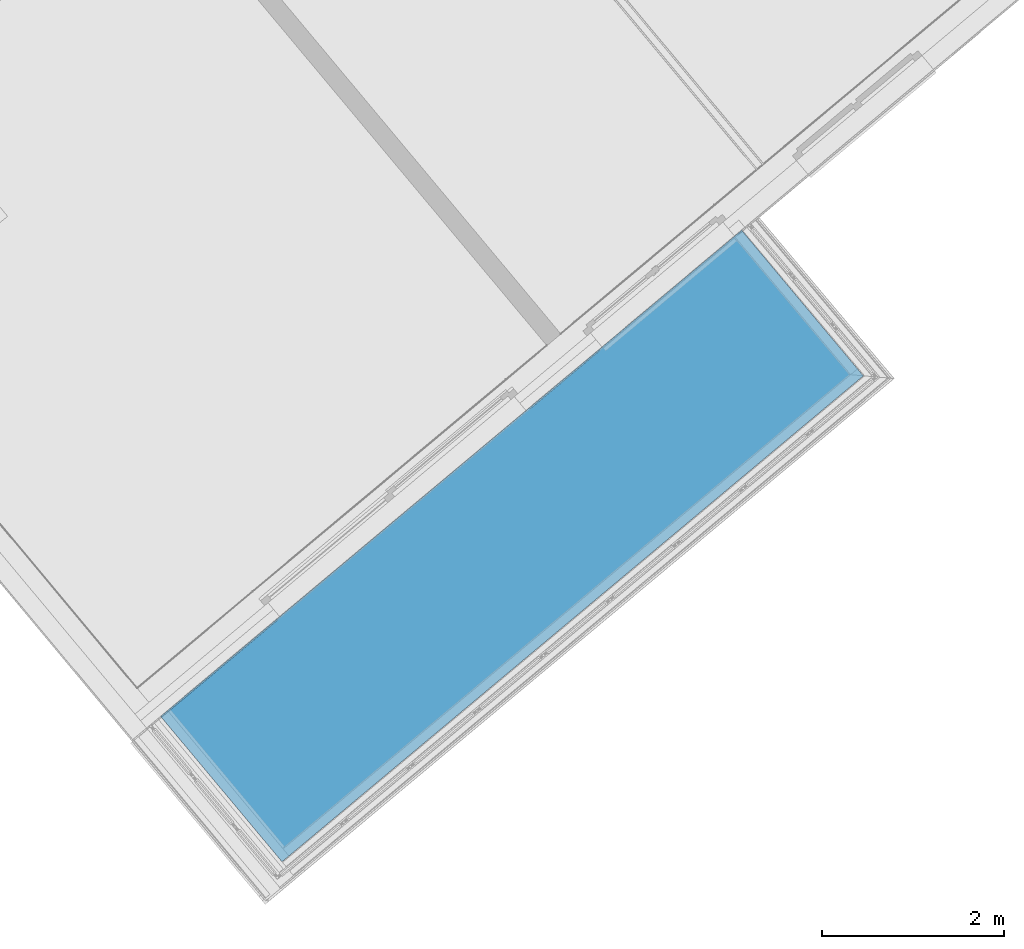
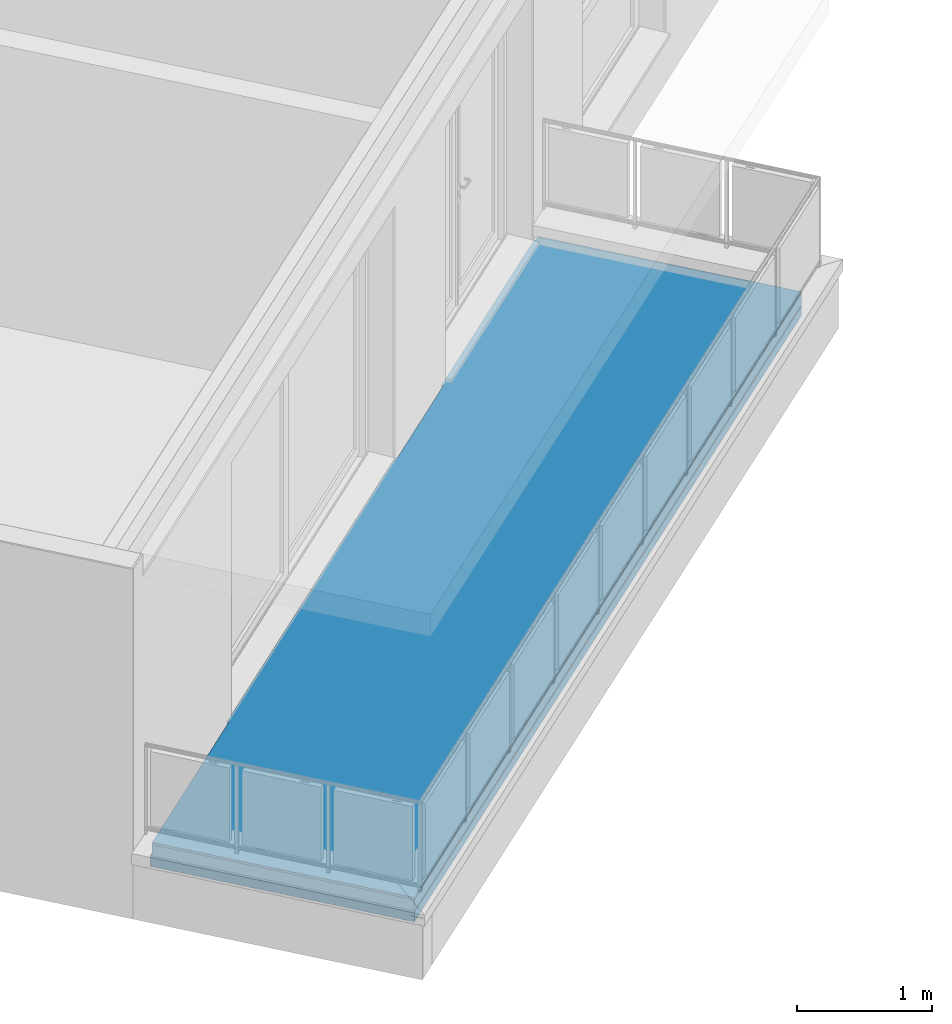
# One storey, part 22 of 53: 4 building element parts, 1 element without a shape of its own.
"""IFC4 building model written with IfcOpenShell, lengths in metres."""

from ifc_helpers import new_model, entity, si_unit, converted_unit, derived_unit, direction, frame, origin_with_axes, place, context, subcontext, project, spatial, polygons, material, type_object, element, aggregate, save


model = new_model("IFC4")

# Units and contexts
model_context = context("Model", 3, precision=1e-05, world=origin_with_axes(), true_north=direction((0.0, 1.0)))
body_context = subcontext(model_context, "Body", "Model", "MODEL_VIEW")
ifc_project = project(units=[si_unit("LENGTHUNIT", "METRE"), si_unit("AREAUNIT", "SQUARE_METRE"), si_unit("VOLUMEUNIT", "CUBIC_METRE"), converted_unit("PLANEANGLEUNIT", "DEGREE", entity("IfcPlaneAngleMeasure", 0.0174532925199), si_unit("PLANEANGLEUNIT", "RADIAN"), dimensions=[0, 0, 0, 0, 0, 0, 0]), converted_unit("TIMEUNIT", "Year", entity("IfcTimeMeasure", 31556926.0), si_unit("TIMEUNIT", "SECOND"), dimensions=[0, 0, 1, 0, 0, 0, 0]), si_unit("MASSUNIT", "GRAM", prefix="KILO"), si_unit("THERMODYNAMICTEMPERATUREUNIT", "DEGREE_CELSIUS"), si_unit("LUMINOUSINTENSITYUNIT", "LUMEN"), si_unit("ENERGYUNIT", "JOULE", prefix="MEGA"), derived_unit("THERMALCONDUCTANCEUNIT", [(si_unit("POWERUNIT", "WATT"), 1), (si_unit("LENGTHUNIT", "METRE"), -1), (si_unit("THERMODYNAMICTEMPERATUREUNIT", "KELVIN"), -1)]), derived_unit("SPECIFICHEATCAPACITYUNIT", [(si_unit("ENERGYUNIT", "JOULE"), 1), (si_unit("MASSUNIT", "GRAM", prefix="KILO"), -1), (si_unit("THERMODYNAMICTEMPERATUREUNIT", "KELVIN"), -1)]), derived_unit("MASSDENSITYUNIT", [(si_unit("MASSUNIT", "GRAM", prefix="KILO"), 1), (si_unit("VOLUMEUNIT", "CUBIC_METRE"), -1)])], contexts=[model_context])

# Site, building, storey
site_placement = place(None, frame((-0.00153261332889, -0.00661245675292, 0.0), z_axis=(0.0, 0.0, 1.0), x_axis=(1.0, 0.0, 0.0)))
site = spatial("IfcSite", under=ifc_project, at=site_placement, Name="Gelände", CompositionType="ELEMENT")
building_placement = place(site_placement, origin_with_axes())
building = spatial("IfcBuilding", under=site, at=building_placement, Name="Gebäude", CompositionType="ELEMENT")
storey_placement = place(building_placement, frame((0.0, 0.0, 2.74), z_axis=(0.0, 0.0, 1.0), x_axis=(1.0, 0.0, 0.0)))
storey = spatial("IfcBuildingStorey", under=building, at=storey_placement, Name="OG1", CompositionType="ELEMENT", Elevation=2.74)

# Covering, building element parts
covering_type = type_object("IfcCoveringType", Name="Balkon 220", PredefinedType="NOTDEFINED")
covering_placement = place(storey_placement, frame((-0.725470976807, 8.48139200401, 0.0), z_axis=(0.0, 0.0, 1.0), x_axis=(1.0, 0.0, 0.0)))
covering = element("IfcCovering", 1, at=covering_placement, inside=storey, type_object=covering_type, Name="Decke-005", PredefinedType="NOTDEFINED")
ifc_material_1 = material(Name="Platten")
building_element_part_1_placement = place(covering_placement, origin_with_axes())
building_element_part_1 = element("IfcBuildingElementPart", 2, at=building_element_part_1_placement, material=ifc_material_1, Name="Platten", PredefinedType="NOTDEFINED", context=body_context, shape_type="Tessellation", body=[
    polygons([(6.40130696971, 5.33644582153, 0.2), (6.40130696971, 5.33644582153, 0.22), (7.72966029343, 3.74434051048, 0.22), (7.72966029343, 3.74434051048, 0.2), (6.36075963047, 5.30251967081, 0.22), (6.36075963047, 5.30251967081, 0.2), (6.35113399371, 5.31402389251, 0.22), (4.81723776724, 4.03060565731, 0.22), (4.826863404, 4.01910143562, 0.22), (4.0671323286, 3.38343084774, 0.22), (4.05750669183, 3.39493506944, 0.22), (1.27196811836, 1.0642617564, 0.22), (1.28159375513, 1.0527575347, 0.22), (0.00961429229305, -0.0115137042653, 0.22), (1.3357848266, -1.59968419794, 0.22), (1.3357848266, -1.59968419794, 0.2), (0.00961429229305, -0.0115137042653, 0.2), (1.28159375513, 1.0527575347, 0.2), (1.27196811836, 1.0642617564, 0.2), (4.05750669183, 3.39493506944, 0.2), (4.0671323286, 3.38343084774, 0.2), (4.826863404, 4.01910143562, 0.2), (4.81723776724, 4.03060565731, 0.2), (6.35113399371, 5.31402389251, 0.2)], [[[1, 2, 3, 4]], [[5, 2, 1, 6]], [[5, 7, 8, 9, 10, 11, 12, 13, 14, 15, 3, 2]], [[16, 4, 3, 15]], [[6, 1, 4, 16, 17, 18, 19, 20, 21, 22, 23, 24]], [[7, 5, 6, 24]], [[7, 24, 23, 8]], [[9, 8, 23, 22]], [[10, 9, 22, 21]], [[11, 10, 21, 20]], [[11, 20, 19, 12]], [[13, 12, 19, 18]], [[14, 13, 18, 17]], [[14, 17, 16, 15]]], closed=True),
])
ifc_material_2 = material(Name="Luftschicht horizontal")
building_element_part_2_placement = place(covering_placement, origin_with_axes())
building_element_part_2 = element("IfcBuildingElementPart", 3, at=building_element_part_2_placement, material=ifc_material_2, Name="Luftschicht horizontal", PredefinedType="NOTDEFINED", context=body_context, shape_type="Tessellation", body=[
    polygons([(6.40130696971, 5.33644582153, 0.1), (6.40130696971, 5.33644582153, 0.2), (7.72966029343, 3.74434051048, 0.2), (7.72966029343, 3.74434051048, 0.1), (6.36075963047, 5.30251967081, 0.2), (6.36075963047, 5.30251967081, 0.1), (6.35113399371, 5.31402389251, 0.2), (4.81723776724, 4.03060565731, 0.2), (4.826863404, 4.01910143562, 0.2), (4.0671323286, 3.38343084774, 0.2), (4.05750669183, 3.39493506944, 0.2), (1.27196811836, 1.0642617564, 0.2), (1.28159375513, 1.0527575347, 0.2), (0.00961429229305, -0.0115137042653, 0.2), (1.3357848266, -1.59968419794, 0.2), (1.3357848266, -1.59968419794, 0.1), (0.00961429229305, -0.0115137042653, 0.1), (1.28159375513, 1.0527575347, 0.1), (1.27196811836, 1.0642617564, 0.1), (4.05750669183, 3.39493506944, 0.1), (4.0671323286, 3.38343084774, 0.1), (4.826863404, 4.01910143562, 0.1), (4.81723776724, 4.03060565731, 0.1), (6.35113399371, 5.31402389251, 0.1)], [[[1, 2, 3, 4]], [[5, 2, 1, 6]], [[5, 7, 8, 9, 10, 11, 12, 13, 14, 15, 3, 2]], [[16, 4, 3, 15]], [[6, 1, 4, 16, 17, 18, 19, 20, 21, 22, 23, 24]], [[7, 5, 6, 24]], [[7, 24, 23, 8]], [[9, 8, 23, 22]], [[10, 9, 22, 21]], [[11, 10, 21, 20]], [[11, 20, 19, 12]], [[13, 12, 19, 18]], [[14, 13, 18, 17]], [[14, 17, 16, 15]]], closed=True),
])
ifc_material_3 = material(Name="Sperrschicht")
building_element_part_3_placement = place(covering_placement, origin_with_axes())
building_element_part_3 = element("IfcBuildingElementPart", 4, at=building_element_part_3_placement, material=ifc_material_3, Name="Sperrschicht", PredefinedType="NOTDEFINED", context=body_context, shape_type="Tessellation", body=[
    polygons([(1.3357848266, -1.59968419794, 0.085), (1.3357848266, -1.59968419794, 0.1), (0.0, 0.0, 0.1), (0.0, 0.0, 0.085), (7.72966029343, 3.74434051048, 0.085), (7.72966029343, 3.74434051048, 0.1), (6.39169739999, 5.3479634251, 0.1), (6.39169739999, 5.3479634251, 0.085)], [[[1, 2, 3, 4]], [[5, 6, 2, 1]], [[3, 2, 6, 7]], [[4, 3, 7, 8]], [[4, 8, 5, 1]], [[8, 7, 6, 5]]], closed=True),
])
ifc_material_4 = material(Name="Stampfbeton")
building_element_part_4_placement = place(covering_placement, origin_with_axes())
building_element_part_4 = element("IfcBuildingElementPart", 5, at=building_element_part_4_placement, material=ifc_material_4, Name="Stampfbeton", PredefinedType="NOTDEFINED", context=body_context, shape_type="Tessellation", body=[
    polygons([(0.0, 0.0, 0.0), (1.3357848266, -1.59968419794, 0.0), (1.3357848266, -1.59968419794, 0.085), (0.0, 0.0, 0.085), (6.39169739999, 5.3479634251, 0.0), (7.72966029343, 3.74434051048, 0.0), (7.72966029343, 3.74434051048, 0.085), (6.39169739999, 5.3479634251, 0.085)], [[[1, 2, 3, 4]], [[1, 5, 6, 2]], [[2, 6, 7, 3]], [[4, 3, 7, 8]], [[5, 1, 4, 8]], [[6, 5, 8, 7]]], closed=True),
])
aggregate(covering, [building_element_part_1, building_element_part_2, building_element_part_3, building_element_part_4])

save(model, "model.ifc")
